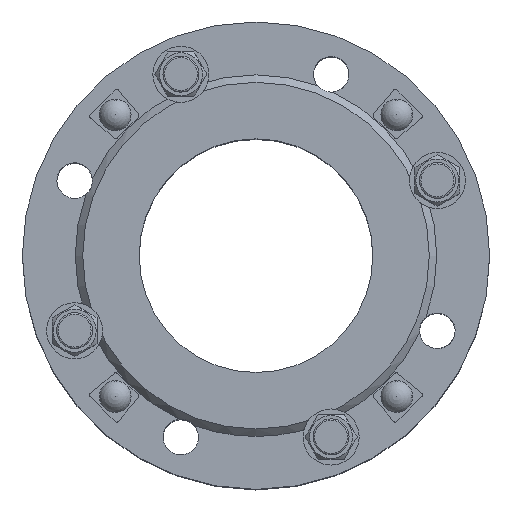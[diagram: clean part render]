
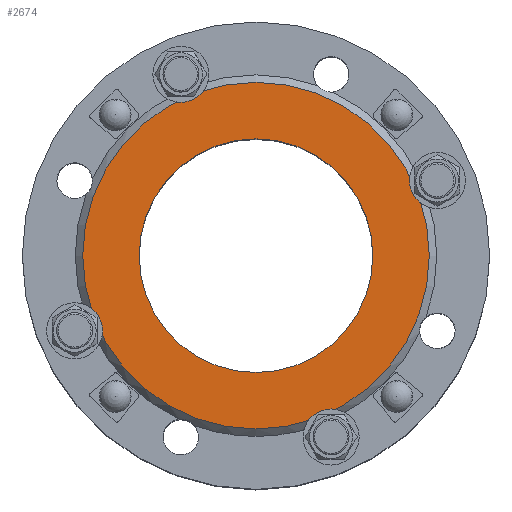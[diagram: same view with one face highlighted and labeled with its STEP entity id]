
A CAD part, top view. The second image highlights one B-rep face of the part: STEP entity #2674.
In plain terms, the highlighted planar face has unit normal (0, 0, 1) as drawn and (0, 0, -1) by its records, which use the part's own axes.
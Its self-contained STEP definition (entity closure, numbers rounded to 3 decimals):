
#2674=ADVANCED_FACE('',(#3899,#3901),#3903,.F.);
#3899=FACE_BOUND('',#3900,.T.);
#3900=EDGE_LOOP('',(#5651));
#3901=FACE_BOUND('',#3902,.T.);
#3902=EDGE_LOOP('',(#5652));
#3903=PLANE('',#3904);
#3904=AXIS2_PLACEMENT_3D('',#3905,#3906,#3907);
#3905=CARTESIAN_POINT('',(0.,0.,0.));
#3906=DIRECTION('',(0.,0.,1.));
#3907=DIRECTION('',(-1.,0.,0.));
#5651=ORIENTED_EDGE('',*,*,#6301,.F.);
#5652=ORIENTED_EDGE('',*,*,#6367,.T.);
#6301=EDGE_CURVE('',#7084,#7084,#7085,.T.);
#6367=EDGE_CURVE('',#7184,#7184,#7185,.T.);
#7084=VERTEX_POINT('',#12382);
#7085=CIRCLE('',#12383,92.7);
#7184=VERTEX_POINT('',#12632);
#7185=CIRCLE('',#12633,62.5);
#12382=CARTESIAN_POINT('',(-92.7,0.,0.));
#12383=AXIS2_PLACEMENT_3D('',#12384,#12385,#12386);
#12384=CARTESIAN_POINT('',(0.,0.,0.));
#12385=DIRECTION('',(0.,0.,1.));
#12386=DIRECTION('',(-1.,0.,0.));
#12632=CARTESIAN_POINT('',(-62.5,0.,0.));
#12633=AXIS2_PLACEMENT_3D('',#12634,#12635,#12636);
#12634=CARTESIAN_POINT('',(0.,0.,0.));
#12635=DIRECTION('',(0.,0.,1.));
#12636=DIRECTION('',(-1.,0.,0.));
